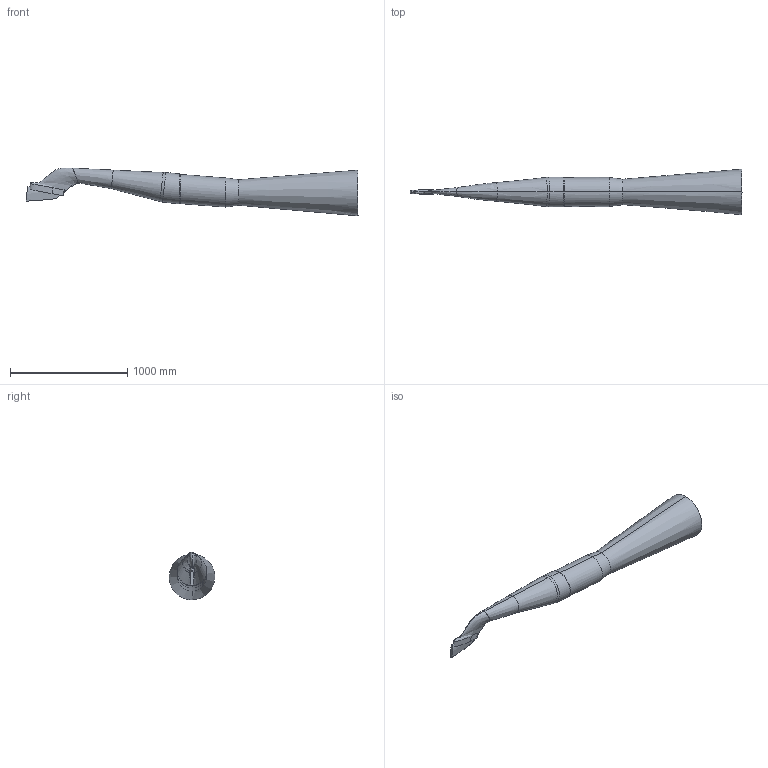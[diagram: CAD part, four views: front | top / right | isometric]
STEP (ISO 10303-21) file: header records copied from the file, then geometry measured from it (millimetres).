
FILE_DESCRIPTION(/* description */ (''),/* implementation_level */ '2;1');
FILE_NAME(/* name */ 'NTF_USS_Sting_noRotation_2025_04_21.stp',/* time_stamp */ '2025-04-21T09:51:05-04:00',/* author */ (''),/* organization */ (''),/* preprocessor_version */ 'ST-DEVELOPER v16.7',/* originating_system */ 'SIEMENS PLM Software NX 12.0',/* authorisation */ '');
FILE_SCHEMA (('AUTOMOTIVE_DESIGN { 1 0 10303 214 3 1 1 1 }'));
Products named in the file (1): sbry074461E7rk3h
Bounding box: 2831.31 x 388.55 x 405.94 mm (x, y, z)
Volume: 129002378.3 mm3; surface area: 2231044 mm2
Topology: 2 solids, 2 shells, 33 faces, 75 edges, 42 vertices
Faces by surface type: bspline 29, plane 2, cylinder 2
Entity records: 85980 total; most frequent: CARTESIAN_POINT 85311, ORIENTED_EDGE 142, EDGE_CURVE 71, B_SPLINE_CURVE_WITH_KNOTS 68, VERTEX_POINT 42, ADVANCED_FACE 33, FACE_OUTER_BOUND 33, EDGE_LOOP 33
